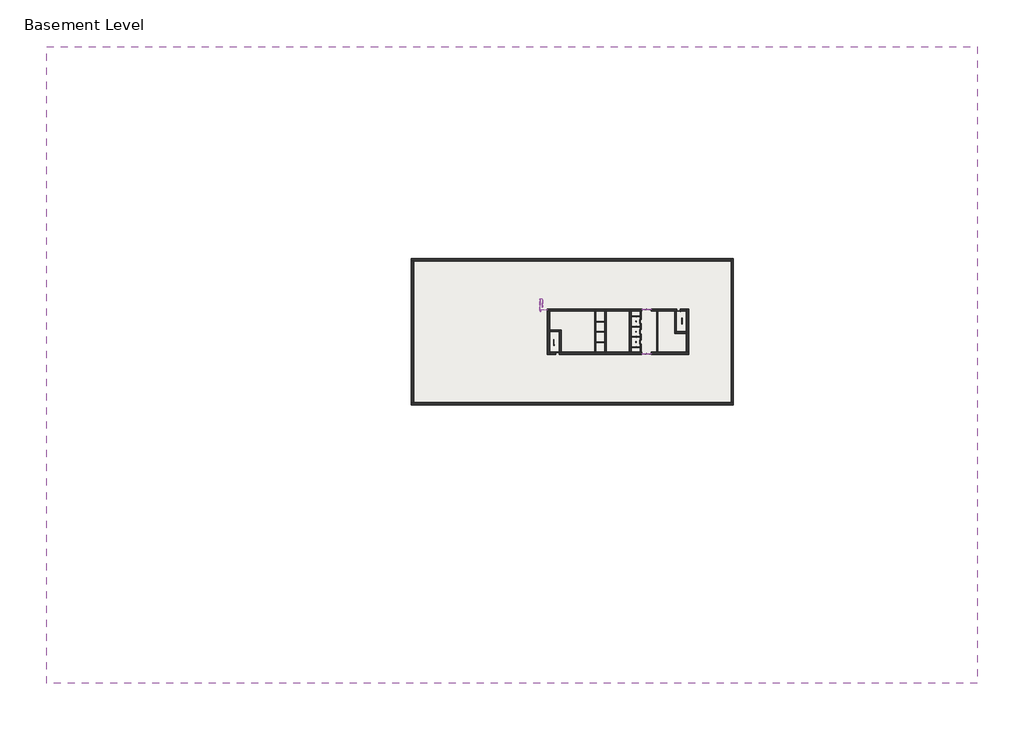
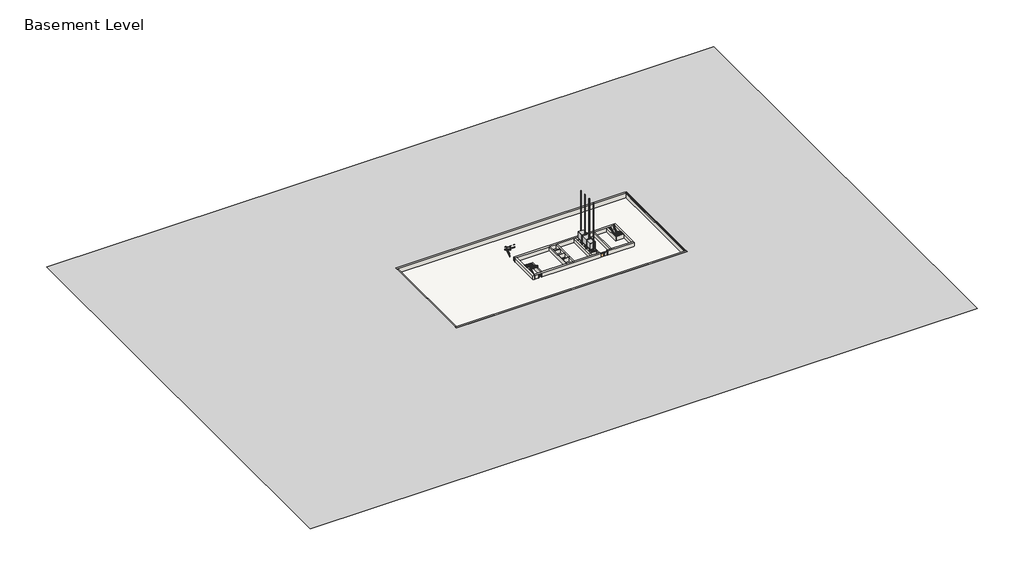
# One storey, incomplete: 24 members, 24 walls, 7 proxies, 6 plates, 5 railings, 4 doors, 3 slabs.
"""IFC4 building model written with IfcOpenShell, lengths in millimetres."""

from ifc_helpers import new_model, si_unit, frame, origin, place, context, project, spatial, polyline, outline, extrude, faceted_brep, triangles, transform, mapped, element, save
from components import proxy_3500_lbs_85ff0118, proxy_7fed659c, curtain_wall_sgl_glass_curtain_wall_sgl_glass_8fcb11fa, curtain_wall_sgl_glass_curtain_wall_sgl_glass_453d5037, door_c3c8cf1c, member_75074519, member_0585f7b2, member_9597caa3, member_b2bde9e6, member_8c690d98, member_3fe7ce38, system_panel_glazed_2148303e, system_panel_glazed_f840508f, system_panel_glazed_a7e6577e, system_panel_glazed_8ef02081, handrail_rectangular_c728cfe4, handrail_rectangular_09896a94, handrail_rectangular_35e503dc, handrail_rectangular_f2ca4272, stringer_channel_shaped_25d5b561, stringer_channel_shaped_80cb6676, stringer_channel_shaped_9c57bb19, stringer_channel_shaped_1b027425

model = new_model("IFC4")

# Units and contexts
model_context = context("Model", 3, world=origin())
ifc_project = project(units=[si_unit("LENGTHUNIT", "METRE", prefix="MILLI")], contexts=[model_context])

# Site, building, storey
site = spatial("IfcSite", under=ifc_project)
building = spatial("IfcBuilding", under=site)
storey = spatial("IfcBuildingStorey", under=building, Name="Basement Level", Elevation=-3048.0)

# Proxies
placement = place(None, origin())
element("IfcBuildingElementProxy", 1, Name="Building Element Proxy", at=placement, inside=storey, context=model_context, shape_type="Tessellation", body=[
    triangles([(78582.8406006, -100588.3346191, -152.4), (78582.8406006, 65222.8653809, -152.4), (-163596.3026367, 65222.8653809, -152.4), (-163596.3026367, -100588.3346191, -152.4), (-68723.8702881, -28082.2114746, -152.4), (-68723.8702881, 10017.7896881, -152.4), (-2048.1300716, 10017.7896881, -152.4), (15096.1285492, 10017.7896881, -152.4), (15096.1285492, -28082.2114746, -152.4), (-57695.9108643, -28082.2114746, -152.4)], [[4, 5, 3], [5, 4, 10], [5, 6, 3], [3, 6, 2], [4, 1, 10], [9, 1, 2], [1, 9, 10], [7, 8, 2], [2, 8, 9], [7, 2, 6]], closed=False),
])
proxy_3500_lbs_shape = proxy_3500_lbs_85ff0118(model_context)
element("IfcBuildingElementProxy", 2, Name="Elevator-Hydraulic[1] : 3500 lbs", ObjectType="Elevator-Hydraulic[1] : 3500 lbs", at=placement, inside=storey, context=model_context, shape_type="MappedRepresentation", body=[
    mapped(proxy_3500_lbs_shape, transform((-10221.2209663, -11691.7633527, -3048.0), x_axis=(0.0, -1.0, 0.0), y_axis=(1.0, 0.0, 0.0), z_axis=(0.0, 0.0, 1.0))),
])
element("IfcBuildingElementProxy", 3, Name="Elevator-Hydraulic[1] : 3500 lbs", ObjectType="Elevator-Hydraulic[1] : 3500 lbs", at=placement, inside=storey, context=model_context, shape_type="MappedRepresentation", body=[
    mapped(proxy_3500_lbs_shape, transform((-10221.2209663, -9024.7633527, -3048.0), x_axis=(0.0, -1.0, 0.0), y_axis=(1.0, 0.0, 0.0), z_axis=(0.0, 0.0, 1.0))),
])
element("IfcBuildingElementProxy", 4, Name="Elevator-Hydraulic[1] : 3500 lbs", ObjectType="Elevator-Hydraulic[1] : 3500 lbs", at=placement, inside=storey, context=model_context, shape_type="MappedRepresentation", body=[
    mapped(proxy_3500_lbs_shape, transform((-10221.2209663, -6357.7633527, -3048.0), x_axis=(0.0, -1.0, 0.0), y_axis=(1.0, 0.0, 0.0), z_axis=(0.0, 0.0, 1.0))),
])
proxy_shape = proxy_7fed659c(model_context)
element("IfcBuildingElementProxy", 5, Name="Elevator%20Door-Center[1] : 42\" x 84\"", ObjectType="Elevator%20Door-Center[1] : 42\" x 84\"", at=placement, inside=storey, context=model_context, shape_type="MappedRepresentation", body=[
    mapped(proxy_shape, transform((-9030.2427926, -6266.0747049, -3048.0), x_axis=(0.0, 1.0, 0.0), y_axis=(-1.0, 0.0, 0.0), z_axis=(0.0, 0.0, 1.0))),
])
element("IfcBuildingElementProxy", 6, Name="Elevator%20Door-Center[1] : 42\" x 84\"", ObjectType="Elevator%20Door-Center[1] : 42\" x 84\"", at=placement, inside=storey, context=model_context, shape_type="MappedRepresentation", body=[
    mapped(proxy_shape, transform((-9030.2427926, -8933.0747049, -3048.0), x_axis=(0.0, 1.0, 0.0), y_axis=(-1.0, 0.0, 0.0), z_axis=(0.0, 0.0, 1.0))),
])
element("IfcBuildingElementProxy", 7, Name="Elevator%20Door-Center[1] : 42\" x 84\"", ObjectType="Elevator%20Door-Center[1] : 42\" x 84\"", at=placement, inside=storey, context=model_context, shape_type="MappedRepresentation", body=[
    mapped(proxy_shape, transform((-9030.2427926, -11600.0747049, -3048.0), x_axis=(0.0, 1.0, 0.0), y_axis=(-1.0, 0.0, 0.0), z_axis=(0.0, 0.0, 1.0))),
])

# Doors
curtain_wall_sgl_glass_curtain_wall_sgl_glass_shape = curtain_wall_sgl_glass_curtain_wall_sgl_glass_8fcb11fa(model_context)
element("IfcDoor", 8, ObjectType="Curtain Wall Sgl Glass : Curtain Wall Sgl Glass", at=placement, inside=storey, context=model_context, shape_type="MappedRepresentation", body=[
    mapped(curtain_wall_sgl_glass_curtain_wall_sgl_glass_shape, transform((-8089.0820783, -3241.0103492, -3009.9), x_axis=(-1.0, 0.0, 0.0), y_axis=(0.0, -1.0, 0.0), z_axis=(0.0, 0.0, 1.0))),
])
curtain_wall_sgl_glass_curtain_wall_sgl_glass_2_shape = curtain_wall_sgl_glass_curtain_wall_sgl_glass_453d5037(model_context)
element("IfcDoor", 9, ObjectType="Curtain Wall Sgl Glass : Curtain Wall Sgl Glass", at=placement, inside=storey, context=model_context, shape_type="MappedRepresentation", body=[
    mapped(curtain_wall_sgl_glass_curtain_wall_sgl_glass_2_shape, transform((-8089.0820783, -14823.4103492, -3009.9), x_axis=(-1.0, 0.0, 0.0), y_axis=(0.0, -1.0, 0.0), z_axis=(0.0, 0.0, 1.0))),
])
door_shape = door_c3c8cf1c(model_context)
element("IfcDoor", 10, ObjectType="Single-Flush : 36\" x 84\"", at=placement, inside=storey, context=model_context, shape_type="MappedRepresentation", body=[
    mapped(door_shape, transform((-30700.0713641, -14671.0103492, -3048.0), x_axis=(1.0, 0.0, 0.0), y_axis=(0.0, 1.0, 0.0), z_axis=(0.0, 0.0, 1.0))),
])
element("IfcDoor", 11, ObjectType="Single-Flush : 36\" x 84\"", at=placement, inside=storey, context=model_context, shape_type="MappedRepresentation", body=[
    mapped(door_shape, transform((817.7000645, -3393.4103492, -3048.0), x_axis=(-1.0, 0.0, 0.0), y_axis=(0.0, -1.0, 0.0), z_axis=(0.0, 0.0, 1.0))),
])

# Members
member_shape = member_75074519(model_context)
element("IfcMember", 12, ObjectType="Rectangular Mullion : 2.5\" x 5\" rectangular", at=placement, inside=storey, context=model_context, shape_type="MappedRepresentation", body=[
    mapped(member_shape, transform((-6276.1570783, -3241.0103492, -434.975), x_axis=(0.0, 0.0, 1.0), y_axis=(0.0, -1.0, 0.0), z_axis=(1.0, 0.0, 0.0))),
])
element("IfcMember", 13, ObjectType="Rectangular Mullion : 2.5\" x 5\" rectangular", at=placement, inside=storey, context=model_context, shape_type="MappedRepresentation", body=[
    mapped(member_shape, transform((-7495.3570783, -3241.0103492, -434.975), x_axis=(0.0, 0.0, 1.0), y_axis=(0.0, -1.0, 0.0), z_axis=(1.0, 0.0, 0.0))),
])
element("IfcMember", 14, ObjectType="Rectangular Mullion : 2.5\" x 5\" rectangular", at=placement, inside=storey, context=model_context, shape_type="MappedRepresentation", body=[
    mapped(member_shape, transform((-8714.5570783, -3241.0103492, -3073.4), x_axis=(0.0, 0.0, -1.0), y_axis=(0.0, -1.0, 0.0), z_axis=(-1.0, 0.0, 0.0))),
])
element("IfcMember", 15, ObjectType="Rectangular Mullion : 2.5\" x 5\" rectangular", at=placement, inside=storey, context=model_context, shape_type="MappedRepresentation", body=[
    mapped(member_shape, transform((-7495.3570783, -3241.0103492, -3073.4), x_axis=(0.0, 0.0, -1.0), y_axis=(0.0, -1.0, 0.0), z_axis=(-1.0, 0.0, 0.0))),
])
member_2_shape = member_0585f7b2(model_context)
element("IfcMember", 16, ObjectType="Rectangular Mullion : 2.5\" x 5\" rectangular", at=placement, inside=storey, context=model_context, shape_type="MappedRepresentation", body=[
    mapped(member_2_shape, transform((-7495.3570783, -3241.0103492, -635.0), x_axis=(0.0, 0.0, 1.0), y_axis=(0.0, -1.0, 0.0), z_axis=(1.0, 0.0, 0.0))),
])
element("IfcMember", 17, ObjectType="Rectangular Mullion : 2.5\" x 5\" rectangular", at=placement, inside=storey, context=model_context, shape_type="MappedRepresentation", body=[
    mapped(member_2_shape, transform((-6339.6570783, -3241.0103492, -635.0), x_axis=(0.0, 0.0, 1.0), y_axis=(0.0, -1.0, 0.0), z_axis=(1.0, 0.0, 0.0))),
])
member_3_shape = member_9597caa3(model_context)
element("IfcMember", 18, ObjectType="Rectangular Mullion : 2.5\" x 5\" rectangular", at=placement, inside=storey, context=model_context, shape_type="MappedRepresentation", body=[
    mapped(member_3_shape, transform((-7495.3570783, -3241.0103492, -3009.9), x_axis=(1.0, 0.0, 0.0), y_axis=(0.0, -1.0, 0.0), z_axis=(0.0, 0.0, -1.0))),
])
member_4_shape = member_b2bde9e6(model_context)
element("IfcMember", 19, ObjectType="Rectangular Mullion : 2.5\" x 5\" rectangular", at=placement, inside=storey, context=model_context, shape_type="MappedRepresentation", body=[
    mapped(member_4_shape, transform((-6276.1570783, -3241.0103492, -3009.9), x_axis=(1.0, 0.0, 0.0), y_axis=(0.0, -1.0, 0.0), z_axis=(0.0, 0.0, -1.0))),
])
element("IfcMember", 20, ObjectType="Rectangular Mullion : 2.5\" x 5\" rectangular", at=placement, inside=storey, context=model_context, shape_type="MappedRepresentation", body=[
    mapped(member_4_shape, transform((-8714.5570783, -3241.0103492, -635.0), x_axis=(-1.0, 0.0, 0.0), y_axis=(0.0, -1.0, 0.0), z_axis=(0.0, 0.0, 1.0))),
])
element("IfcMember", 21, ObjectType="Rectangular Mullion : 2.5\" x 5\" rectangular", at=placement, inside=storey, context=model_context, shape_type="MappedRepresentation", body=[
    mapped(member_shape, transform((-8714.5570783, -14823.4103492, -3073.4), x_axis=(0.0, 0.0, -1.0), y_axis=(0.0, -1.0, 0.0), z_axis=(-1.0, 0.0, 0.0))),
])
element("IfcMember", 22, ObjectType="Rectangular Mullion : 2.5\" x 5\" rectangular", at=placement, inside=storey, context=model_context, shape_type="MappedRepresentation", body=[
    mapped(member_shape, transform((-7495.3570783, -14823.4103492, -3073.4), x_axis=(0.0, 0.0, -1.0), y_axis=(0.0, -1.0, 0.0), z_axis=(-1.0, 0.0, 0.0))),
])
element("IfcMember", 23, ObjectType="Rectangular Mullion : 2.5\" x 5\" rectangular", at=placement, inside=storey, context=model_context, shape_type="MappedRepresentation", body=[
    mapped(member_2_shape, transform((-7495.3570783, -14823.4103492, -635.0), x_axis=(0.0, 0.0, 1.0), y_axis=(0.0, -1.0, 0.0), z_axis=(1.0, 0.0, 0.0))),
])
element("IfcMember", 24, ObjectType="Rectangular Mullion : 2.5\" x 5\" rectangular", at=placement, inside=storey, context=model_context, shape_type="MappedRepresentation", body=[
    mapped(member_2_shape, transform((-6339.6570783, -14823.4103492, -635.0), x_axis=(0.0, 0.0, 1.0), y_axis=(0.0, -1.0, 0.0), z_axis=(1.0, 0.0, 0.0))),
])
element("IfcMember", 25, ObjectType="Rectangular Mullion : 2.5\" x 5\" rectangular", at=placement, inside=storey, context=model_context, shape_type="MappedRepresentation", body=[
    mapped(member_3_shape, transform((-7495.3570783, -14823.4103492, -3009.9), x_axis=(1.0, 0.0, 0.0), y_axis=(0.0, -1.0, 0.0), z_axis=(0.0, 0.0, -1.0))),
])
element("IfcMember", 26, ObjectType="Rectangular Mullion : 2.5\" x 5\" rectangular", at=placement, inside=storey, context=model_context, shape_type="MappedRepresentation", body=[
    mapped(member_4_shape, transform((-6276.1570783, -14823.4103492, -3009.9), x_axis=(1.0, 0.0, 0.0), y_axis=(0.0, -1.0, 0.0), z_axis=(0.0, 0.0, -1.0))),
])
element("IfcMember", 27, ObjectType="Rectangular Mullion : 2.5\" x 5\" rectangular", at=placement, inside=storey, context=model_context, shape_type="MappedRepresentation", body=[
    mapped(member_4_shape, transform((-8714.5570783, -14823.4103492, -635.0), x_axis=(-1.0, 0.0, 0.0), y_axis=(0.0, -1.0, 0.0), z_axis=(0.0, 0.0, 1.0))),
])
member_5_shape = member_8c690d98(model_context)
element("IfcMember", 28, ObjectType="Rectangular Mullion : 2.5\" x 5\" rectangular", at=placement, inside=storey, context=model_context, shape_type="MappedRepresentation", body=[
    mapped(member_5_shape, transform((-6276.1570783, -3241.0103492, -635.0), x_axis=(1.0, 0.0, 0.0), y_axis=(0.0, -1.0, 0.0), z_axis=(0.0, 0.0, -1.0))),
])
element("IfcMember", 29, ObjectType="Rectangular Mullion : 2.5\" x 5\" rectangular", at=placement, inside=storey, context=model_context, shape_type="MappedRepresentation", body=[
    mapped(member_5_shape, transform((-8714.5570783, -3241.0103492, -498.475), x_axis=(-1.0, 0.0, 0.0), y_axis=(0.0, -1.0, 0.0), z_axis=(0.0, 0.0, 1.0))),
])
member_6_shape = member_3fe7ce38(model_context)
element("IfcMember", 30, ObjectType="Rectangular Mullion : 2.5\" x 5\" rectangular", at=placement, inside=storey, context=model_context, shape_type="MappedRepresentation", body=[
    mapped(member_6_shape, transform((-7495.3570783, -3241.0103492, -603.25), x_axis=(1.0, 0.0, 0.0), y_axis=(0.0, -1.0, 0.0), z_axis=(0.0, 0.0, -1.0))),
])
element("IfcMember", 31, ObjectType="Rectangular Mullion : 2.5\" x 5\" rectangular", at=placement, inside=storey, context=model_context, shape_type="MappedRepresentation", body=[
    mapped(member_5_shape, transform((-6276.1570783, -14823.4103492, -635.0), x_axis=(1.0, 0.0, 0.0), y_axis=(0.0, -1.0, 0.0), z_axis=(0.0, 0.0, -1.0))),
])
element("IfcMember", 32, ObjectType="Rectangular Mullion : 2.5\" x 5\" rectangular", at=placement, inside=storey, context=model_context, shape_type="MappedRepresentation", body=[
    mapped(member_5_shape, transform((-8714.5570783, -14823.4103492, -498.475), x_axis=(-1.0, 0.0, 0.0), y_axis=(0.0, -1.0, 0.0), z_axis=(0.0, 0.0, 1.0))),
])
element("IfcMember", 33, ObjectType="Rectangular Mullion : 2.5\" x 5\" rectangular", at=placement, inside=storey, context=model_context, shape_type="MappedRepresentation", body=[
    mapped(member_6_shape, transform((-7495.3570783, -14823.4103492, -603.25), x_axis=(1.0, 0.0, 0.0), y_axis=(0.0, -1.0, 0.0), z_axis=(0.0, 0.0, -1.0))),
])
element("IfcMember", 34, ObjectType="Rectangular Mullion : 2.5\" x 5\" rectangular", at=placement, inside=storey, context=model_context, shape_type="MappedRepresentation", body=[
    mapped(member_shape, transform((-6276.1570783, -14823.4103492, -434.975), x_axis=(0.0, 0.0, 1.0), y_axis=(0.0, -1.0, 0.0), z_axis=(1.0, 0.0, 0.0))),
])
element("IfcMember", 35, ObjectType="Rectangular Mullion : 2.5\" x 5\" rectangular", at=placement, inside=storey, context=model_context, shape_type="MappedRepresentation", body=[
    mapped(member_shape, transform((-7495.3570783, -14823.4103492, -434.975), x_axis=(0.0, 0.0, 1.0), y_axis=(0.0, -1.0, 0.0), z_axis=(1.0, 0.0, 0.0))),
])

# Plates
system_panel_glazed_shape = system_panel_glazed_2148303e(model_context)
element("IfcPlate", 36, ObjectType="System Panel : Glazed", at=placement, inside=storey, context=model_context, shape_type="MappedRepresentation", body=[
    mapped(system_panel_glazed_shape, transform((-6901.6320783, -3241.0103492, -3009.9), x_axis=(1.0, 0.0, 0.0), y_axis=(0.0, 1.0, 0.0), z_axis=(0.0, 0.0, 1.0))),
])
system_panel_glazed_2_shape = system_panel_glazed_f840508f(model_context)
element("IfcPlate", 37, ObjectType="System Panel : Glazed", at=placement, inside=storey, context=model_context, shape_type="MappedRepresentation", body=[
    mapped(system_panel_glazed_2_shape, transform((-6901.6320783, -14823.4103492, -3009.9), x_axis=(1.0, 0.0, 0.0), y_axis=(0.0, 1.0, 0.0), z_axis=(0.0, 0.0, 1.0))),
])
system_panel_glazed_3_shape = system_panel_glazed_a7e6577e(model_context)
element("IfcPlate", 38, ObjectType="System Panel : Glazed", at=placement, inside=storey, context=model_context, shape_type="MappedRepresentation", body=[
    mapped(system_panel_glazed_3_shape, transform((-8089.0820783, -3241.0103492, -603.25), x_axis=(1.0, 0.0, 0.0), y_axis=(0.0, 1.0, 0.0), z_axis=(0.0, 0.0, 1.0))),
])
element("IfcPlate", 39, ObjectType="System Panel : Glazed", at=placement, inside=storey, context=model_context, shape_type="MappedRepresentation", body=[
    mapped(system_panel_glazed_3_shape, transform((-6901.6320783, -3241.0103492, -603.25), x_axis=(1.0, 0.0, 0.0), y_axis=(0.0, 1.0, 0.0), z_axis=(0.0, 0.0, 1.0))),
])
system_panel_glazed_4_shape = system_panel_glazed_8ef02081(model_context)
element("IfcPlate", 40, ObjectType="System Panel : Glazed", at=placement, inside=storey, context=model_context, shape_type="MappedRepresentation", body=[
    mapped(system_panel_glazed_4_shape, transform((-8089.0820783, -14823.4103492, -603.25), x_axis=(1.0, 0.0, 0.0), y_axis=(0.0, 1.0, 0.0), z_axis=(0.0, 0.0, 1.0))),
])
element("IfcPlate", 41, ObjectType="System Panel : Glazed", at=placement, inside=storey, context=model_context, shape_type="MappedRepresentation", body=[
    mapped(system_panel_glazed_4_shape, transform((-6901.6320783, -14823.4103492, -603.25), x_axis=(1.0, 0.0, 0.0), y_axis=(0.0, 1.0, 0.0), z_axis=(0.0, 0.0, 1.0))),
])

# Railings
handrail_rectangular_shape = handrail_rectangular_c728cfe4(model_context)
element("IfcRailing", 42, ObjectType="Handrail - Rectangular", at=placement, inside=storey, context=model_context, shape_type="MappedRepresentation", body=[
    mapped(handrail_rectangular_shape, transform((0.0, 0.0, 0.0), x_axis=(1.0, 0.0, 0.0), y_axis=(0.0, 1.0, 0.0), z_axis=(0.0, 0.0, 1.0))),
])
handrail_rectangular_2_shape = handrail_rectangular_09896a94(model_context)
element("IfcRailing", 43, ObjectType="Handrail - Rectangular", at=placement, inside=storey, context=model_context, shape_type="MappedRepresentation", body=[
    mapped(handrail_rectangular_2_shape, transform((0.0, 0.0, 0.0), x_axis=(1.0, 0.0, 0.0), y_axis=(0.0, 1.0, 0.0), z_axis=(0.0, 0.0, 1.0))),
])
handrail_rectangular_3_shape = handrail_rectangular_35e503dc(model_context)
element("IfcRailing", 44, ObjectType="Handrail - Rectangular", at=placement, inside=storey, context=model_context, shape_type="MappedRepresentation", body=[
    mapped(handrail_rectangular_3_shape, transform((0.0, 0.0, 0.0), x_axis=(1.0, 0.0, 0.0), y_axis=(0.0, 1.0, 0.0), z_axis=(0.0, 0.0, 1.0))),
])
handrail_rectangular_4_shape = handrail_rectangular_f2ca4272(model_context)
element("IfcRailing", 45, ObjectType="Handrail - Rectangular", at=placement, inside=storey, context=model_context, shape_type="MappedRepresentation", body=[
    mapped(handrail_rectangular_4_shape, transform((0.0, 0.0, 0.0), x_axis=(1.0, 0.0, 0.0), y_axis=(0.0, 1.0, 0.0), z_axis=(0.0, 0.0, 1.0))),
])
stringer_channel_shaped_shape = stringer_channel_shaped_25d5b561(model_context)
stringer_channel_shaped_2_shape = stringer_channel_shaped_80cb6676(model_context)
stringer_channel_shaped_3_shape = stringer_channel_shaped_9c57bb19(model_context)
stringer_channel_shaped_4_shape = stringer_channel_shaped_1b027425(model_context)
element("IfcRailing", 46, ObjectType="Stringer - Channel Shaped", at=placement, inside=storey, context=model_context, shape_type="MappedRepresentation", body=[
    mapped(stringer_channel_shaped_shape, transform((0.0, 0.0, 0.0), x_axis=(1.0, 0.0, 0.0), y_axis=(0.0, 1.0, 0.0), z_axis=(0.0, 0.0, 1.0))),
    mapped(stringer_channel_shaped_2_shape, transform((0.0, 0.0, 0.0), x_axis=(1.0, 0.0, 0.0), y_axis=(0.0, 1.0, 0.0), z_axis=(0.0, 0.0, 1.0))),
    mapped(stringer_channel_shaped_3_shape, transform((0.0, 0.0, 0.0), x_axis=(1.0, 0.0, 0.0), y_axis=(0.0, 1.0, 0.0), z_axis=(0.0, 0.0, 1.0))),
    mapped(stringer_channel_shaped_4_shape, transform((0.0, 0.0, 0.0), x_axis=(1.0, 0.0, 0.0), y_axis=(0.0, 1.0, 0.0), z_axis=(0.0, 0.0, 1.0))),
])

# Slabs
element("IfcSlab", 47, ObjectType="6\" Foundation Slab", at=placement, inside=storey, context=model_context, shape_type="SweptSolid", body=[
    extrude(outline(polyline([(-68114.2713641, -27472.6103492), (-68114.2713641, 9408.1896508), (14486.5286359, 9408.1896508), (14486.5286359, -27472.6103492), (-68114.2713641, -27472.6103492)])), frame((0.0, 0.0, -3200.4), z_axis=(0.0, 0.0, 1.0), x_axis=(1.0, 0.0, 0.0)), (0.0, 0.0, 1.0), 152.4),
])
element("IfcSlab", 48, ObjectType="Generic - 4\"", at=placement, inside=storey, context=model_context, shape_type="SweptSolid", body=[
    extrude(outline(polyline([(-68114.2713641, -27472.6103492), (-68114.2713641, 9408.1896508), (14486.5286359, 9408.1896508), (14486.5286359, -27472.6103492), (-68114.2713641, -27472.6103492)])), frame((0.0, 0.0, -3149.6), z_axis=(0.0, 0.0, 1.0), x_axis=(1.0, 0.0, 0.0)), (0.0, 0.0, 1.0), 101.6),
])
element("IfcSlab", 49, ObjectType="Pad 1", at=placement, inside=storey, context=model_context, shape_type="SweptSolid", body=[
    extrude(outline(polyline([(-68723.8713641, -28082.2103492), (-68723.8713641, 10017.7896508), (15096.1286359, 10017.7896508), (15096.1286359, -28082.2103492), (-68723.8713641, -28082.2103492)])), frame((0.0, 0.0, -2286.0), z_axis=(0.0, 0.0, 1.0), x_axis=(1.0, 0.0, 0.0)), (0.0, 0.0, 1.0), 304.8),
])

# Walls
element("IfcWall", 50, ObjectType="Core-shaft 10\" Concrete", at=placement, inside=storey, context=model_context, shape_type="SweptSolid", body=[
    extrude(outline(polyline([(-20725.1285069, -3698.2103492), (-20725.1285069, -14366.2103492), (-20979.1285069, -14366.2103492), (-20979.1285069, -3698.2103492), (-20725.1285069, -3698.2103492)])), frame((0.0, 0.0, -3048.0), z_axis=(0.0, 0.0, 1.0), x_axis=(1.0, 0.0, 0.0)), (0.0, 0.0, 1.0), 2613.025),
])
element("IfcWall", 51, ObjectType="Core-shaft 10\" Concrete", at=placement, inside=storey, context=model_context, shape_type="SweptSolid", body=[
    extrude(outline(polyline([(-3698.2103492, -3048.0), (-5825.4603492, -3048.0), (-5825.4603492, -889.0), (-6904.9603492, -889.0), (-6904.9603492, -3048.0), (-8492.4603492, -3048.0), (-8492.4603492, -889.0), (-9571.9603492, -889.0), (-9571.9603492, -3048.0), (-11159.4603492, -3048.0), (-11159.4603492, -889.0), (-12238.9603492, -889.0), (-12238.9603492, -3048.0), (-14366.2103492, -3048.0), (-14366.2103492, -434.975), (-3698.2103492, -434.975), (-3698.2103492, -3048.0)])), frame((-9157.2427926, 0.0, 0.0), z_axis=(1.0, 0.0, 0.0), x_axis=(0.0, 1.0, 0.0)), (0.0, 0.0, 1.0), 254.0),
])
element("IfcWall", 52, ObjectType="Core-shaft 10\" Concrete", at=placement, inside=storey, context=model_context, shape_type="SweptSolid", body=[
    extrude(outline(polyline([(-4636.0427926, -3698.2103492), (-4636.0427926, -14366.2103492), (-4890.0427926, -14366.2103492), (-4890.0427926, -3698.2103492), (-4636.0427926, -3698.2103492)])), frame((0.0, 0.0, -3048.0), z_axis=(0.0, 0.0, 1.0), x_axis=(1.0, 0.0, 0.0)), (0.0, 0.0, 1.0), 2613.025),
])
element("IfcWall", 53, ObjectType="Core-shaft 18\" Concrete", at=placement, inside=storey, context=model_context, shape_type="SweptSolid", body=[
    extrude(outline(polyline([(-18385.1284437, -14366.2103492), (-18385.1284437, -3698.2103492), (-17927.9284437, -3698.2103492), (-17927.9284437, -14366.2103492), (-18385.1284437, -14366.2103492)])), frame((0.0, 0.0, -3048.0), z_axis=(0.0, 0.0, 1.0), x_axis=(1.0, 0.0, 0.0)), (0.0, 0.0, 1.0), 2613.025),
])
element("IfcWall", 54, ObjectType="Core-shaft 18\" Concrete", at=placement, inside=storey, context=model_context, shape_type="Brep", body=[
    faceted_brep([(-29709.4713641, -14366.2103492, -3048.0), (-29709.4713641, -8575.0103492, -3048.0), (-29709.4713641, -8575.0103492, -434.975), (-29709.4713641, -14366.2103492, -434.975), (-30166.6713641, -14366.2103492, -3048.0), (-30166.6713641, -14366.2103492, -434.975), (-30166.6713641, -9032.2103492, -434.975), (-30166.6713641, -8575.0103492, -434.975), (-30166.6713641, -8575.0103492, -3048.0), (-30166.6713641, -9032.2103492, -3048.0)], [[[0, 1, 2, 3]], [[4, 5, 6, 7, 8, 9]], [[1, 0, 4, 9, 8]], [[0, 3, 5, 4]], [[2, 1, 8, 7]], [[3, 2, 7, 6, 5]]]),
])
element("IfcWall", 55, ObjectType="Core-shaft 18\" Concrete", at=placement, inside=storey, context=model_context, shape_type="SweptSolid", body=[
    extrude(outline(polyline([(-32750.2142212, -8575.0103492), (-30166.6713641, -8575.0103492), (-30166.6713641, -9032.2103492), (-32750.2142212, -9032.2103492), (-32750.2142212, -8575.0103492)])), frame((0.0, 0.0, -3048.0), z_axis=(0.0, 0.0, 1.0), x_axis=(1.0, 0.0, 0.0)), (0.0, 0.0, 1.0), 2613.025),
])
element("IfcWall", 56, ObjectType="Core-shaft 18\" Concrete", at=placement, inside=storey, context=model_context, shape_type="SweptSolid", body=[
    extrude(outline(polyline([(-11954.4428559, -14366.2103492), (-11954.4428559, -3698.2103492), (-11497.2428559, -3698.2103492), (-11497.2428559, -14366.2103492), (-11954.4428559, -14366.2103492)])), frame((0.0, 0.0, -3048.0), z_axis=(0.0, 0.0, 1.0), x_axis=(1.0, 0.0, 0.0)), (0.0, 0.0, 1.0), 2613.025),
])
element("IfcWall", 57, ObjectType="Core-shaft 18\" Concrete", at=placement, inside=storey, context=model_context, shape_type="Brep", body=[
    faceted_brep([(-172.8999355, -3698.2103492, -3048.0), (-172.8999355, -9489.4103492, -3048.0), (-172.8999355, -9489.4103492, -434.975), (-172.8999355, -3698.2103492, -434.975), (284.3000645, -3698.2103492, -3048.0), (284.3000645, -3698.2103492, -434.975), (284.3000645, -9032.2103492, -434.975), (284.3000645, -9489.4103492, -434.975), (284.3000645, -9489.4103492, -3048.0), (284.3000645, -9032.2103492, -3048.0)], [[[0, 1, 2, 3]], [[4, 5, 6, 7, 8, 9]], [[1, 0, 4, 9, 8]], [[0, 3, 5, 4]], [[2, 1, 8, 7]], [[3, 2, 7, 6, 5]]]),
])
element("IfcWall", 58, ObjectType="Core-shaft 18\" Concrete", at=placement, inside=storey, context=model_context, shape_type="SweptSolid", body=[
    extrude(outline(polyline([(2867.8429217, -9489.4103492), (284.3000645, -9489.4103492), (284.3000645, -9032.2103492), (2867.8429217, -9032.2103492), (2867.8429217, -9489.4103492)])), frame((0.0, 0.0, -3048.0), z_axis=(0.0, 0.0, 1.0), x_axis=(1.0, 0.0, 0.0)), (0.0, 0.0, 1.0), 2613.025),
])
element("IfcWall", 59, ObjectType="Core-shaft 24\" Concrete", at=placement, inside=storey, context=model_context, shape_type="Brep", body=[
    faceted_brep([(15096.1286359, -27472.6103492, -3048.0), (14486.5286359, -27472.6103492, -3048.0), (-68114.2713641, -27472.6103492, -3048.0), (-68723.8713641, -27472.6103492, -3048.0), (-68723.8713641, -27472.6103492, -434.975), (-68723.8713641, -27472.6103492, -127.0), (15096.1286359, -27472.6103492, -127.0), (15096.1286359, -27472.6103492, -434.975), (15096.1286359, -28082.2103492, -3048.0), (15096.1286359, -28082.2103492, -127.0), (-68723.8713641, -28082.2103492, -127.0), (-68723.8713641, -28082.2103492, -3048.0)], [[[0, 1, 2, 3, 4, 5, 6, 7]], [[8, 9, 10, 11]], [[3, 2, 1, 0, 8, 11]], [[6, 5, 10, 9]], [[0, 7, 6, 9, 8]], [[5, 4, 3, 11, 10]]]),
])
element("IfcWall", 60, ObjectType="Core-shaft 24\" Concrete", at=placement, inside=storey, context=model_context, shape_type="Brep", body=[
    faceted_brep([(14486.5286359, 10017.7896508, -3048.0), (14486.5286359, 9408.1896508, -3048.0), (14486.5286359, -27472.6103492, -3048.0), (14486.5286359, -27472.6103492, -434.975), (14486.5286359, 10017.7896508, -434.975), (15096.1286359, 10017.7896508, -3048.0), (15096.1286359, 10017.7896508, -434.975), (15096.1286359, 9953.8127769, -434.975), (15096.1286359, -27472.6103492, -434.975), (15096.1286359, -27472.6103492, -3048.0), (14575.0788114, 10017.7896508, -434.975), (14830.5804088, 10017.7896508, -434.975), (15043.3054088, 10017.7896508, -434.975), (15043.3054088, -27472.6103492, -434.975), (14830.5804088, -27472.6103492, -434.975), (15043.3054088, 9960.2986536, -434.975), (14830.5804088, 9986.4179993, -434.975), (14830.5804088, -15034.4255886, -434.975)], [[[0, 1, 2, 3, 4]], [[5, 6, 7, 8, 9]], [[2, 1, 0, 5, 9]], [[0, 4, 10, 11, 12, 6, 5]], [[3, 2, 9, 8, 13, 14]], [[13, 8, 7, 15]], [[7, 6, 12, 15]], [[14, 13, 15, 16, 17]], [[11, 10, 16]], [[12, 11, 16, 15]], [[4, 3, 14, 17, 16, 10]]]),
])
element("IfcWall", 61, ObjectType="Core-shaft 24\" Concrete", at=placement, inside=storey, context=model_context, shape_type="Brep", body=[
    faceted_brep([(-68723.8713641, 9408.1896508, -3048.0), (-68114.2713641, 9408.1896508, -3048.0), (14486.5286359, 9408.1896508, -3048.0), (14486.5286359, 9408.1896508, -127.0), (-68723.8713641, 9408.1896508, -127.0), (-68723.8713641, 9408.1896508, -434.975), (-68723.8713641, 10017.7896508, -3048.0), (-68723.8713641, 10017.7896508, -127.0), (14486.5286359, 10017.7896508, -127.0), (14486.5286359, 10017.7896508, -434.975), (14486.5286359, 10017.7896508, -3048.0)], [[[0, 1, 2, 3, 4, 5]], [[6, 7, 8, 9, 10]], [[2, 1, 0, 6, 10]], [[4, 3, 8, 7]], [[0, 5, 4, 7, 6]], [[3, 2, 10, 9, 8]]]),
])
element("IfcWall", 62, ObjectType="Core-shaft 24\" Concrete", at=placement, inside=storey, context=model_context, shape_type="SweptSolid", body=[
    extrude(outline(polyline([(-3048.0, -68114.2713641), (-434.975, -68114.2713641), (-434.975, -68660.7599961), (-434.975, -68723.8713641), (-3048.0, -68723.8713641), (-3048.0, -68114.2713641)])), frame((0.0, -27472.6103492, 0.0), z_axis=(0.0, 1.0, 0.0), x_axis=(0.0, 0.0, 1.0)), (0.0, 0.0, 1.0), 36880.8),
])
element("IfcWall", 63, ObjectType="Core-shaft 24\" Concrete", at=placement, inside=storey, context=model_context, shape_type="Brep", body=[
    faceted_brep([(-8714.5570783, -14366.2103492, -3048.0), (-8903.2427926, -14366.2103492, -3048.0), (-9157.2427926, -14366.2103492, -3048.0), (-11497.2428559, -14366.2103492, -3048.0), (-11954.4428559, -14366.2103492, -3048.0), (-17927.9284437, -14366.2103492, -3048.0), (-18385.1284437, -14366.2103492, -3048.0), (-20725.1285069, -14366.2103492, -3048.0), (-20979.1285069, -14366.2103492, -3048.0), (-29709.4713641, -14366.2103492, -3048.0), (-30166.6713641, -14366.2103492, -3048.0), (-30242.8713641, -14366.2103492, -3048.0), (-30242.8713641, -14366.2103492, -914.4), (-31157.2713641, -14366.2103492, -914.4), (-31157.2713641, -14366.2103492, -3048.0), (-32750.2142212, -14366.2103492, -3048.0), (-32750.2142212, -14366.2103492, -434.975), (-30166.6713641, -14366.2103492, -434.975), (-29709.4713641, -14366.2103492, -434.975), (-20979.1285069, -14366.2103492, -434.975), (-20725.1285069, -14366.2103492, -434.975), (-18385.1284437, -14366.2103492, -434.975), (-17927.9284437, -14366.2103492, -434.975), (-11954.4428559, -14366.2103492, -434.975), (-11497.2428559, -14366.2103492, -434.975), (-9157.2427926, -14366.2103492, -434.975), (-8903.2427926, -14366.2103492, -434.975), (-8714.5570783, -14366.2103492, -434.975), (-30242.8713641, -14975.8103492, -914.4), (-30242.8713641, -14975.8103492, -3048.0), (-8714.5570783, -14975.8103492, -3048.0), (-8714.5570783, -14975.8103492, -434.975), (-32750.2142212, -14975.8103492, -434.975), (-32750.2142212, -14975.8103492, -3048.0), (-31157.2713641, -14975.8103492, -3048.0), (-31157.2713641, -14975.8103492, -914.4)], [[[0, 1, 2, 3, 4, 5, 6, 7, 8, 9, 10, 11, 12, 13, 14, 15, 16, 17, 18, 19, 20, 21, 22, 23, 24, 25, 26, 27]], [[28, 29, 30, 31, 32, 33, 34, 35]], [[34, 33, 15, 14]], [[30, 29, 11, 10, 9, 8, 7, 6, 5, 4, 3, 2, 1, 0]], [[12, 11, 29, 28]], [[13, 12, 28, 35]], [[14, 13, 35, 34]], [[0, 27, 31, 30]], [[16, 15, 33, 32]], [[16, 32, 31, 27, 26, 25, 24, 23, 22, 21, 20, 19, 18, 17]]]),
    faceted_brep([(3477.4429217, -14366.2103492, -434.975), (3477.4429217, -14366.2103492, -3048.0), (2867.8429217, -14366.2103492, -3048.0), (-4636.0427926, -14366.2103492, -3048.0), (-4890.0427926, -14366.2103492, -3048.0), (-6276.1570783, -14366.2103492, -3048.0), (-6276.1570783, -14366.2103492, -434.975), (-4890.0427926, -14366.2103492, -434.975), (-4636.0427926, -14366.2103492, -434.975), (2867.8429217, -14366.2103492, -434.975), (3477.4429217, -14975.8103492, -3048.0), (3477.4429217, -14975.8103492, -434.975), (-6276.1570783, -14975.8103492, -434.975), (-6276.1570783, -14975.8103492, -3048.0)], [[[0, 1, 2, 3, 4, 5, 6, 7, 8, 9]], [[10, 11, 12, 13]], [[1, 10, 13, 5, 4, 3, 2]], [[6, 5, 13, 12]], [[1, 0, 11, 10]], [[11, 0, 9, 8, 7, 6, 12]]]),
])
element("IfcWall", 64, ObjectType="Core-shaft 24\" Concrete", at=placement, inside=storey, context=model_context, shape_type="Brep", body=[
    faceted_brep([(2867.8429217, -3088.6103492, -3048.0), (2867.8429217, -3698.2103492, -3048.0), (2867.8429217, -9032.2103492, -3048.0), (2867.8429217, -9489.4103492, -3048.0), (2867.8429217, -14366.2103492, -3048.0), (2867.8429217, -14366.2103492, -434.975), (2867.8429217, -9489.4103492, -434.975), (2867.8429217, -9032.2103492, -434.975), (2867.8429217, -3698.2103492, -434.975), (2867.8429217, -3088.6103492, -434.975), (3477.4429217, -3088.6103492, -3048.0), (3477.4429217, -3088.6103492, -434.975), (3477.4429217, -14366.2103492, -434.975), (3477.4429217, -14366.2103492, -3048.0)], [[[0, 1, 2, 3, 4, 5, 6, 7, 8, 9]], [[10, 11, 12, 13]], [[4, 3, 2, 1, 0, 10, 13]], [[5, 4, 13, 12]], [[0, 9, 11, 10]], [[9, 8, 7, 6, 5, 12, 11]]]),
])
element("IfcWall", 65, ObjectType="Core-shaft 24\" Concrete", at=placement, inside=storey, context=model_context, shape_type="Brep", body=[
    faceted_brep([(-6276.1570783, -3698.2103492, -3048.0), (-4890.0427926, -3698.2103492, -3048.0), (-4636.0427926, -3698.2103492, -3048.0), (-172.8999355, -3698.2103492, -3048.0), (284.3000645, -3698.2103492, -3048.0), (360.5000645, -3698.2103492, -3048.0), (360.5000645, -3698.2103492, -914.4), (1274.9000645, -3698.2103492, -914.4), (1274.9000645, -3698.2103492, -3048.0), (2867.8429217, -3698.2103492, -3048.0), (2867.8429217, -3698.2103492, -434.975), (284.3000645, -3698.2103492, -434.975), (-172.8999355, -3698.2103492, -434.975), (-4636.0427926, -3698.2103492, -434.975), (-4890.0427926, -3698.2103492, -434.975), (-6276.1570783, -3698.2103492, -434.975), (360.5000645, -3088.6103492, -914.4), (360.5000645, -3088.6103492, -3048.0), (-6276.1570783, -3088.6103492, -3048.0), (-6276.1570783, -3088.6103492, -434.975), (2867.8429217, -3088.6103492, -434.975), (2867.8429217, -3088.6103492, -3048.0), (1274.9000645, -3088.6103492, -3048.0), (1274.9000645, -3088.6103492, -914.4)], [[[0, 1, 2, 3, 4, 5, 6, 7, 8, 9, 10, 11, 12, 13, 14, 15]], [[16, 17, 18, 19, 20, 21, 22, 23]], [[22, 21, 9, 8]], [[18, 17, 5, 4, 3, 2, 1, 0]], [[0, 15, 19, 18]], [[6, 5, 17, 16]], [[7, 6, 16, 23]], [[8, 7, 23, 22]], [[10, 9, 21, 20]], [[10, 20, 19, 15, 14, 13, 12, 11]]]),
    faceted_brep([(-33359.8142212, -3698.2103492, -434.975), (-33359.8142212, -3698.2103492, -3048.0), (-32750.2142212, -3698.2103492, -3048.0), (-20979.1285069, -3698.2103492, -3048.0), (-20725.1285069, -3698.2103492, -3048.0), (-18385.1284437, -3698.2103492, -3048.0), (-17927.9284437, -3698.2103492, -3048.0), (-11954.4428559, -3698.2103492, -3048.0), (-11497.2428559, -3698.2103492, -3048.0), (-9157.2427926, -3698.2103492, -3048.0), (-8903.2427926, -3698.2103492, -3048.0), (-8714.5570783, -3698.2103492, -3048.0), (-8714.5570783, -3698.2103492, -434.975), (-8903.2427926, -3698.2103492, -434.975), (-9157.2427926, -3698.2103492, -434.975), (-11497.2428559, -3698.2103492, -434.975), (-11954.4428559, -3698.2103492, -434.975), (-17927.9284437, -3698.2103492, -434.975), (-18385.1284437, -3698.2103492, -434.975), (-20725.1285069, -3698.2103492, -434.975), (-20979.1285069, -3698.2103492, -434.975), (-32750.2142212, -3698.2103492, -434.975), (-33359.8142212, -3088.6103492, -3048.0), (-33359.8142212, -3088.6103492, -434.975), (-8714.5570783, -3088.6103492, -434.975), (-8714.5570783, -3088.6103492, -3048.0)], [[[0, 1, 2, 3, 4, 5, 6, 7, 8, 9, 10, 11, 12, 13, 14, 15, 16, 17, 18, 19, 20, 21]], [[22, 23, 24, 25]], [[1, 22, 25, 11, 10, 9, 8, 7, 6, 5, 4, 3, 2]], [[12, 11, 25, 24]], [[1, 0, 23, 22]], [[23, 0, 21, 20, 19, 18, 17, 16, 15, 14, 13, 12, 24]]]),
])
element("IfcWall", 66, ObjectType="Core-shaft 24\" Concrete", at=placement, inside=storey, context=model_context, shape_type="Brep", body=[
    faceted_brep([(-32750.2142212, -14975.8103492, -3048.0), (-32750.2142212, -14366.2103492, -3048.0), (-32750.2142212, -9032.2103492, -3048.0), (-32750.2142212, -8575.0103492, -3048.0), (-32750.2142212, -3698.2103492, -3048.0), (-32750.2142212, -3698.2103492, -434.975), (-32750.2142212, -8575.0103492, -434.975), (-32750.2142212, -9032.2103492, -434.975), (-32750.2142212, -14366.2103492, -434.975), (-32750.2142212, -14975.8103492, -434.975), (-33359.8142212, -14975.8103492, -3048.0), (-33359.8142212, -14975.8103492, -434.975), (-33359.8142212, -3698.2103492, -434.975), (-33359.8142212, -3698.2103492, -3048.0)], [[[0, 1, 2, 3, 4, 5, 6, 7, 8, 9]], [[10, 11, 12, 13]], [[4, 3, 2, 1, 0, 10, 13]], [[0, 9, 11, 10]], [[5, 4, 13, 12]], [[9, 8, 7, 6, 5, 12, 11]]]),
])
element("IfcWall", 67, ObjectType="Generic - 5\"", at=placement, inside=storey, context=model_context, shape_type="SweptSolid", body=[
    extrude(outline(polyline([(-18385.1284437, -11826.2103492), (-20725.1285069, -11826.2103492), (-20725.1285069, -11699.2103492), (-18385.1284437, -11699.2103492), (-18385.1284437, -11826.2103492)])), frame((0.0, 0.0, -3048.0), z_axis=(0.0, 0.0, 1.0), x_axis=(1.0, 0.0, 0.0)), (0.0, 0.0, 1.0), 2613.025),
])
element("IfcWall", 68, ObjectType="Generic - 5\"", at=placement, inside=storey, context=model_context, shape_type="SweptSolid", body=[
    extrude(outline(polyline([(-18385.1284437, -9159.2103492), (-20725.1285069, -9159.2103492), (-20725.1285069, -9032.2103492), (-18385.1284437, -9032.2103492), (-18385.1284437, -9159.2103492)])), frame((0.0, 0.0, -3048.0), z_axis=(0.0, 0.0, 1.0), x_axis=(1.0, 0.0, 0.0)), (0.0, 0.0, 1.0), 2613.025),
])
element("IfcWall", 69, ObjectType="Generic - 5\"", at=placement, inside=storey, context=model_context, shape_type="SweptSolid", body=[
    extrude(outline(polyline([(-18385.1284437, -6492.2103492), (-20725.1285069, -6492.2103492), (-20725.1285069, -6365.2103492), (-18385.1284437, -6365.2103492), (-18385.1284437, -6492.2103492)])), frame((0.0, 0.0, -3048.0), z_axis=(0.0, 0.0, 1.0), x_axis=(1.0, 0.0, 0.0)), (0.0, 0.0, 1.0), 2613.025),
])
element("IfcWall", 70, ObjectType="Generic - 5\"", at=placement, inside=storey, context=model_context, shape_type="SweptSolid", body=[
    extrude(outline(polyline([(-11497.2428559, -10302.2103492), (-9157.2427926, -10302.2103492), (-9157.2427926, -10429.2103492), (-11497.2428559, -10429.2103492), (-11497.2428559, -10302.2103492)])), frame((0.0, 0.0, -3048.0), z_axis=(0.0, 0.0, 1.0), x_axis=(1.0, 0.0, 0.0)), (0.0, 0.0, 1.0), 2613.025),
])
element("IfcWall", 71, ObjectType="Generic - 5\"", at=placement, inside=storey, context=model_context, shape_type="SweptSolid", body=[
    extrude(outline(polyline([(-11497.2428559, -7635.2103492), (-9157.2427926, -7635.2103492), (-9157.2427926, -7762.2103492), (-11497.2428559, -7762.2103492), (-11497.2428559, -7635.2103492)])), frame((0.0, 0.0, -3048.0), z_axis=(0.0, 0.0, 1.0), x_axis=(1.0, 0.0, 0.0)), (0.0, 0.0, 1.0), 2613.025),
])
element("IfcWall", 72, ObjectType="Generic - 5\"", at=placement, inside=storey, context=model_context, shape_type="SweptSolid", body=[
    extrude(outline(polyline([(-11497.2428559, -4968.2103492), (-9157.2427926, -4968.2103492), (-9157.2427926, -5095.2103492), (-11497.2428559, -5095.2103492), (-11497.2428559, -4968.2103492)])), frame((0.0, 0.0, -3048.0), z_axis=(0.0, 0.0, 1.0), x_axis=(1.0, 0.0, 0.0)), (0.0, 0.0, 1.0), 2613.025),
])
element("IfcWall", 73, ObjectType="Generic - 5\"", at=placement, inside=storey, context=model_context, shape_type="SweptSolid", body=[
    extrude(outline(polyline([(-11497.2428559, -12969.2103492), (-9157.2427926, -12969.2103492), (-9157.2427926, -13096.2103492), (-11497.2428559, -13096.2103492), (-11497.2428559, -12969.2103492)])), frame((0.0, 0.0, -3048.0), z_axis=(0.0, 0.0, 1.0), x_axis=(1.0, 0.0, 0.0)), (0.0, 0.0, 1.0), 2613.025),
])

save(model, "model.ifc")
